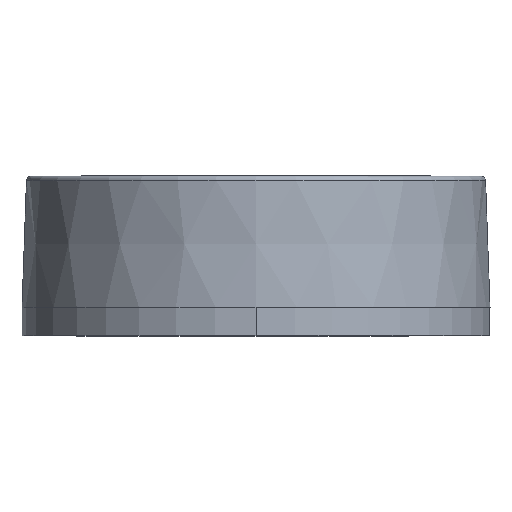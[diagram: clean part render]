
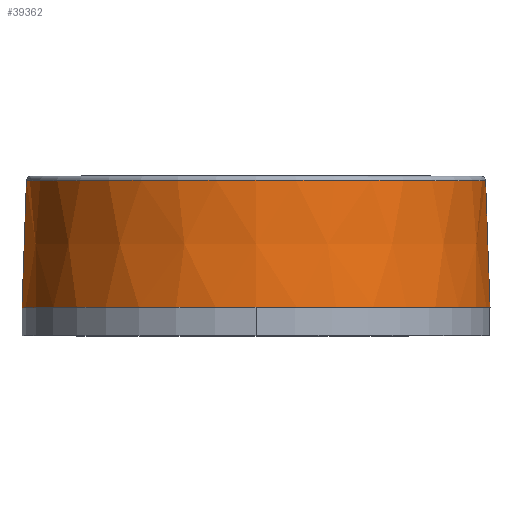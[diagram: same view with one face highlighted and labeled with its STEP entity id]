
A CAD part, top view. The second image highlights one B-rep face of the part: STEP entity #39362.
In plain terms, the highlighted conical face has half-angle 2 degrees and reference radius 25 mm.
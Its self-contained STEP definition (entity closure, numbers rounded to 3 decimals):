
#297 = AXIS2_PLACEMENT_3D ( 'NONE', #1073, #36397, #6133 ) ;
#1073 = CARTESIAN_POINT ( 'NONE',  ( -2.232, 15.546, 0.336 ) ) ;
#3829 = EDGE_LOOP ( 'NONE', ( #4412, #19652, #33267, #31149 ) ) ;
#4412 = ORIENTED_EDGE ( 'NONE', *, *, #13910, .T. ) ;
#5221 = CARTESIAN_POINT ( 'NONE',  ( -2.232, 1.989, 0.336 ) ) ;
#6133 = DIRECTION ( 'NONE',  ( -1., 0., 0. ) ) ;
#6826 = LINE ( 'NONE', #14295, #57432 ) ;
#7035 = VERTEX_POINT ( 'NONE', #12089 ) ;
#9749 = DIRECTION ( 'NONE',  ( 0., -1., 0. ) ) ;
#10275 = DIRECTION ( 'NONE',  ( 1., 0., 0. ) ) ;
#12089 = CARTESIAN_POINT ( 'NONE',  ( -27.232, 1.989, 0.336 ) ) ;
#12563 = CARTESIAN_POINT ( 'NONE',  ( -26.759, 15.546, 0.336 ) ) ;
#13590 = CARTESIAN_POINT ( 'NONE',  ( 22.768, 1.989, 0.336 ) ) ;
#13910 = EDGE_CURVE ( 'NONE', #29675, #30371, #23009, .T. ) ;
#14295 = CARTESIAN_POINT ( 'NONE',  ( -27.232, 1.989, 0.336 ) ) ;
#16478 = CIRCLE ( 'NONE', #29685, 25. ) ;
#19652 = ORIENTED_EDGE ( 'NONE', *, *, #51045, .T. ) ;
#23009 = CIRCLE ( 'NONE', #297, 24.527 ) ;
#23714 = CONICAL_SURFACE ( 'NONE', #43478, 25., 0.035 ) ;
#24444 = DIRECTION ( 'NONE',  ( -0.035, -0.999, 0. ) ) ;
#26895 = FACE_OUTER_BOUND ( 'NONE', #3829, .T. ) ;
#28420 = EDGE_CURVE ( 'NONE', #29675, #53842, #30864, .T. ) ;
#29675 = VERTEX_POINT ( 'NONE', #40558 ) ;
#29685 = AXIS2_PLACEMENT_3D ( 'NONE', #40056, #9749, #45134 ) ;
#30371 = VERTEX_POINT ( 'NONE', #12563 ) ;
#30864 = LINE ( 'NONE', #31821, #56201 ) ;
#31149 = ORIENTED_EDGE ( 'NONE', *, *, #28420, .F. ) ;
#31821 = CARTESIAN_POINT ( 'NONE',  ( 22.768, 1.989, 0.336 ) ) ;
#33267 = ORIENTED_EDGE ( 'NONE', *, *, #34572, .F. ) ;
#34572 = EDGE_CURVE ( 'NONE', #53842, #7035, #16478, .T. ) ;
#36397 = DIRECTION ( 'NONE',  ( 0., -1., 0. ) ) ;
#36972 = DIRECTION ( 'NONE',  ( 0.035, -0.999, 0. ) ) ;
#39362 = ADVANCED_FACE ( 'NONE', ( #26895 ), #23714, .T. ) ;
#40056 = CARTESIAN_POINT ( 'NONE',  ( -2.232, 1.989, 0.336 ) ) ;
#40558 = CARTESIAN_POINT ( 'NONE',  ( 22.294, 15.546, 0.336 ) ) ;
#43478 = AXIS2_PLACEMENT_3D ( 'NONE', #5221, #60695, #10275 ) ;
#45134 = DIRECTION ( 'NONE',  ( 1., 0., 0. ) ) ;
#51045 = EDGE_CURVE ( 'NONE', #30371, #7035, #6826, .T. ) ;
#53842 = VERTEX_POINT ( 'NONE', #13590 ) ;
#56201 = VECTOR ( 'NONE', #36972, 1000. ) ;
#57432 = VECTOR ( 'NONE', #24444, 1000. ) ;
#60695 = DIRECTION ( 'NONE',  ( 0., -1., 0. ) ) ;
